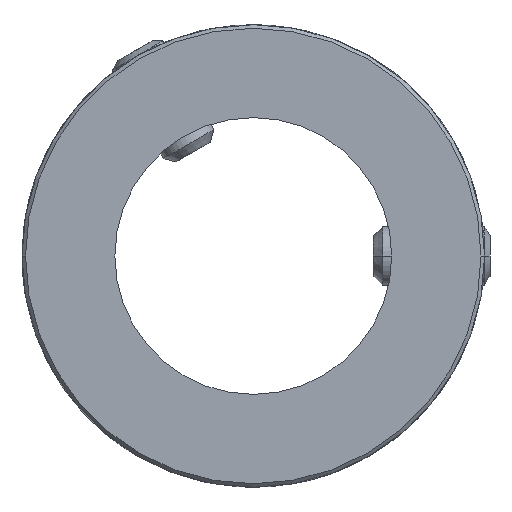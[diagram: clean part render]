
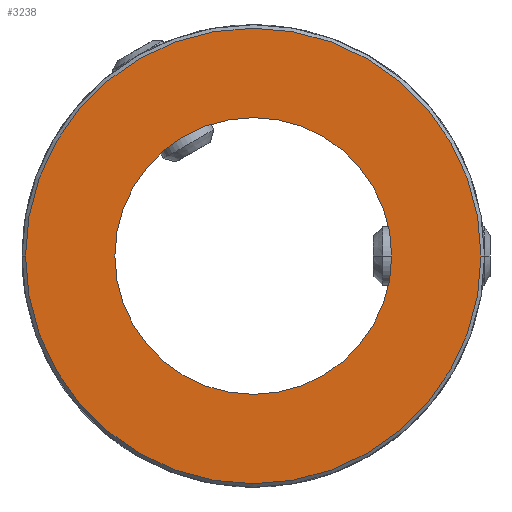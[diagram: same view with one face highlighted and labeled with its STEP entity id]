
A CAD part, front view. The second image highlights one B-rep face of the part: STEP entity #3238.
In plain terms, the highlighted planar face has unit normal (0, -1, 0).
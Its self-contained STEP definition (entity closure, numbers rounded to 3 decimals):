
#1=CARTESIAN_POINT('',(0.,-75.,
0.));
#2=DIRECTION('',(0.,-1.,0.));
#3=DIRECTION('',(-1.,0.,0.));
#4=AXIS2_PLACEMENT_3D('',#1,#2,#3);
#6=CARTESIAN_POINT('',(0.,-75.,
0.));
#7=DIRECTION('',(0.,-1.,0.));
#8=DIRECTION('',(1.,0.,0.));
#9=AXIS2_PLACEMENT_3D('',#6,#7,#8);
#11=CARTESIAN_POINT('',(0.,-75.,0.));
#12=DIRECTION('',(0.,1.,0.));
#13=DIRECTION('',(1.,0.,0.));
#14=AXIS2_PLACEMENT_3D('',#11,#12,#13);
#16=CARTESIAN_POINT('',(0.,-75.,0.));
#17=DIRECTION('',(0.,1.,0.));
#18=DIRECTION('',(-1.,0.,0.));
#19=AXIS2_PLACEMENT_3D('',#16,#17,#18);
#2979=CARTESIAN_POINT('',(19.,-75.,0.));
#2980=CARTESIAN_POINT('',(-19.,-75.,0.));
#2981=VERTEX_POINT('',#2979);
#2982=VERTEX_POINT('',#2980);
#3007=CARTESIAN_POINT('',(-31.27,-75.,0.));
#3008=CARTESIAN_POINT('',(31.27,-75.,0.));
#3009=VERTEX_POINT('',#3007);
#3010=VERTEX_POINT('',#3008);
#3221=CARTESIAN_POINT('',(0.,-75.,0.));
#3222=DIRECTION('',(0.,1.,0.));
#3223=DIRECTION('',(1.,0.,0.));
#3224=AXIS2_PLACEMENT_3D('',#3221,#3222,#3223);
#3225=PLANE('',#3224);
#3227=ORIENTED_EDGE('',*,*,#3226,.F.);
#3229=ORIENTED_EDGE('',*,*,#3228,.F.);
#3230=EDGE_LOOP('',(#3227,#3229));
#3231=FACE_OUTER_BOUND('',#3230,.F.);
#3233=ORIENTED_EDGE('',*,*,#3232,.F.);
#3235=ORIENTED_EDGE('',*,*,#3234,.F.);
#3236=EDGE_LOOP('',(#3233,#3235));
#3237=FACE_BOUND('',#3236,.F.);
#3238=ADVANCED_FACE('',(#3231,#3237),#3225,.F.);
#5=CIRCLE('',#4,31.27);
#10=CIRCLE('',#9,31.27);
#15=CIRCLE('',#14,19.);
#20=CIRCLE('',#19,19.);
#3226=EDGE_CURVE('',#3009,#3010,#5,.T.);
#3228=EDGE_CURVE('',#3010,#3009,#10,.T.);
#3232=EDGE_CURVE('',#2981,#2982,#15,.T.);
#3234=EDGE_CURVE('',#2982,#2981,#20,.T.);
